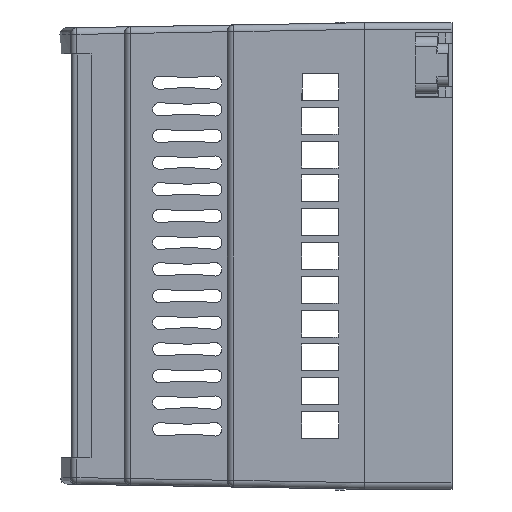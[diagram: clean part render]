
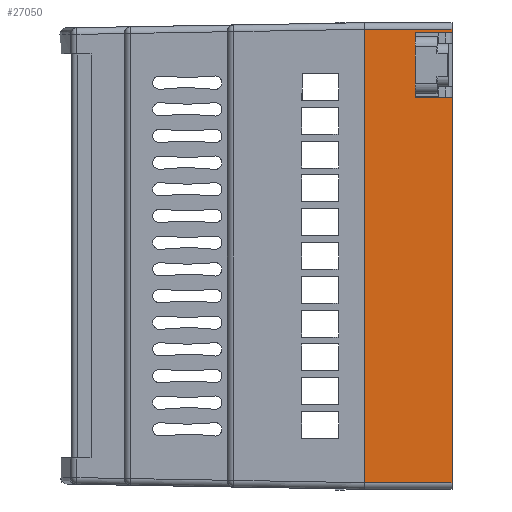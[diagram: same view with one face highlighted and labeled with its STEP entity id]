
A CAD part, left-side view. The second image highlights one B-rep face of the part: STEP entity #27050.
In plain terms, the highlighted planar face has unit normal (-1, 0, 0).
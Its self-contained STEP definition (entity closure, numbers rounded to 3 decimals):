
#613 = LINE ( 'NONE', #20844, #24795 ) ;
#1295 = LINE ( 'NONE', #23543, #24733 ) ;
#1658 = VERTEX_POINT ( 'NONE', #20667 ) ;
#2493 = ORIENTED_EDGE ( 'NONE', *, *, #10304, .T. ) ;
#3009 = ORIENTED_EDGE ( 'NONE', *, *, #3082, .T. ) ;
#3082 = EDGE_CURVE ( 'NONE', #9054, #26366, #13559, .T. ) ;
#4978 = LINE ( 'NONE', #18498, #29186 ) ;
#5036 = DIRECTION ( 'NONE',  ( 0., 0., 1. ) ) ;
#5543 = VECTOR ( 'NONE', #5925, 1000. ) ;
#5925 = DIRECTION ( 'NONE',  ( 0., 0., 1. ) ) ;
#5977 = ORIENTED_EDGE ( 'NONE', *, *, #27878, .T. ) ;
#6306 = DIRECTION ( 'NONE',  ( 0., -1., 0. ) ) ;
#6508 = ORIENTED_EDGE ( 'NONE', *, *, #29038, .T. ) ;
#7060 = CARTESIAN_POINT ( 'NONE',  ( -45.3, -13.1, -34. ) ) ;
#7237 = ORIENTED_EDGE ( 'NONE', *, *, #25683, .F. ) ;
#7601 = EDGE_LOOP ( 'NONE', ( #28013, #2493, #27994, #13823, #3009, #7237, #5977, #6508 ) ) ;
#9054 = VERTEX_POINT ( 'NONE', #9851 ) ;
#9156 = DIRECTION ( 'NONE',  ( 0., 1., 0. ) ) ;
#9446 = VECTOR ( 'NONE', #6306, 1000. ) ;
#9542 = CARTESIAN_POINT ( 'NONE',  ( -45.3, -13.1, 34. ) ) ;
#9554 = DIRECTION ( 'NONE',  ( 0., 0., 1. ) ) ;
#9678 = CARTESIAN_POINT ( 'NONE',  ( -45.3, -13.1, 35. ) ) ;
#9851 = CARTESIAN_POINT ( 'NONE',  ( -45.3, -13.1, 34. ) ) ;
#10304 = EDGE_CURVE ( 'NONE', #11185, #1658, #22216, .T. ) ;
#10468 = CARTESIAN_POINT ( 'NONE',  ( -45.3, -7.6, 35. ) ) ;
#11185 = VERTEX_POINT ( 'NONE', #19689 ) ;
#12097 = VECTOR ( 'NONE', #14115, 1000. ) ;
#12542 = VERTEX_POINT ( 'NONE', #30129 ) ;
#12811 = DIRECTION ( 'NONE',  ( 0., 0., 1. ) ) ;
#13002 = CARTESIAN_POINT ( 'NONE',  ( -45.3, 0., 35. ) ) ;
#13559 = LINE ( 'NONE', #9542, #12097 ) ;
#13823 = ORIENTED_EDGE ( 'NONE', *, *, #22609, .T. ) ;
#14115 = DIRECTION ( 'NONE',  ( 0., 1., 0. ) ) ;
#14438 = CARTESIAN_POINT ( 'NONE',  ( -45.3, 0., -34. ) ) ;
#14709 = VERTEX_POINT ( 'NONE', #20622 ) ;
#14840 = VERTEX_POINT ( 'NONE', #7060 ) ;
#14860 = VECTOR ( 'NONE', #24695, 1000. ) ;
#15672 = EDGE_CURVE ( 'NONE', #14709, #1658, #613, .T. ) ;
#16236 = DIRECTION ( 'NONE',  ( 0., 0., 1. ) ) ;
#16464 = FACE_OUTER_BOUND ( 'NONE', #7601, .T. ) ;
#16737 = PLANE ( 'NONE',  #21554 ) ;
#18498 = CARTESIAN_POINT ( 'NONE',  ( -45.3, -13.1, 35. ) ) ;
#19089 = DIRECTION ( 'NONE',  ( -1., 0., 0. ) ) ;
#19689 = CARTESIAN_POINT ( 'NONE',  ( -45.3, -7.6, 23.75 ) ) ;
#20261 = VERTEX_POINT ( 'NONE', #14438 ) ;
#20377 = CARTESIAN_POINT ( 'NONE',  ( -45.3, -13.1, -34. ) ) ;
#20622 = CARTESIAN_POINT ( 'NONE',  ( -45.3, -13.1, 33.5 ) ) ;
#20667 = CARTESIAN_POINT ( 'NONE',  ( -45.3, -7.6, 33.5 ) ) ;
#20844 = CARTESIAN_POINT ( 'NONE',  ( -45.3, -13.1, 33.5 ) ) ;
#21554 = AXIS2_PLACEMENT_3D ( 'NONE', #9678, #19089, #5036 ) ;
#21847 = LINE ( 'NONE', #26990, #14860 ) ;
#22216 = LINE ( 'NONE', #10468, #28460 ) ;
#22609 = EDGE_CURVE ( 'NONE', #14709, #9054, #4978, .T. ) ;
#22899 = EDGE_CURVE ( 'NONE', #11185, #12542, #21847, .T. ) ;
#23491 = LINE ( 'NONE', #13002, #5543 ) ;
#23543 = CARTESIAN_POINT ( 'NONE',  ( -45.3, -13.1, 35. ) ) ;
#24695 = DIRECTION ( 'NONE',  ( 0., -1., 0. ) ) ;
#24733 = VECTOR ( 'NONE', #9554, 1000. ) ;
#24795 = VECTOR ( 'NONE', #9156, 1000. ) ;
#25683 = EDGE_CURVE ( 'NONE', #20261, #26366, #23491, .T. ) ;
#26366 = VERTEX_POINT ( 'NONE', #27867 ) ;
#26990 = CARTESIAN_POINT ( 'NONE',  ( -45.3, -13.1, 23.75 ) ) ;
#27050 = ADVANCED_FACE ( 'NONE', ( #16464 ), #16737, .T. ) ;
#27425 = LINE ( 'NONE', #20377, #9446 ) ;
#27867 = CARTESIAN_POINT ( 'NONE',  ( -45.3, 0., 34. ) ) ;
#27878 = EDGE_CURVE ( 'NONE', #20261, #14840, #27425, .T. ) ;
#27994 = ORIENTED_EDGE ( 'NONE', *, *, #15672, .F. ) ;
#28013 = ORIENTED_EDGE ( 'NONE', *, *, #22899, .F. ) ;
#28460 = VECTOR ( 'NONE', #12811, 1000. ) ;
#29038 = EDGE_CURVE ( 'NONE', #14840, #12542, #1295, .T. ) ;
#29186 = VECTOR ( 'NONE', #16236, 1000. ) ;
#30129 = CARTESIAN_POINT ( 'NONE',  ( -45.3, -13.1, 23.75 ) ) ;
